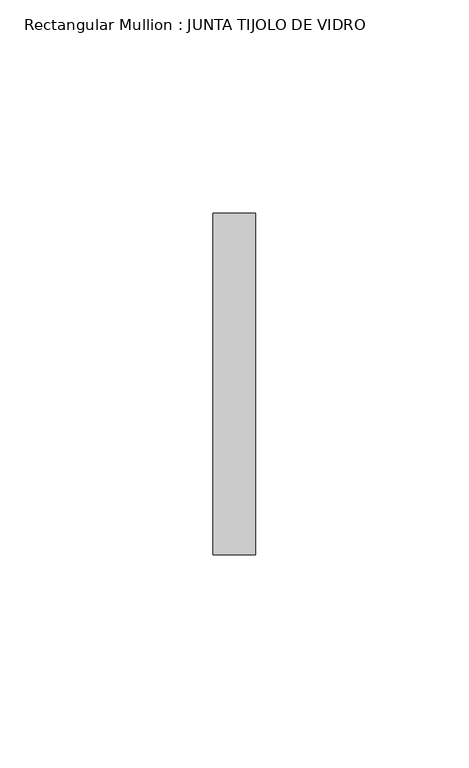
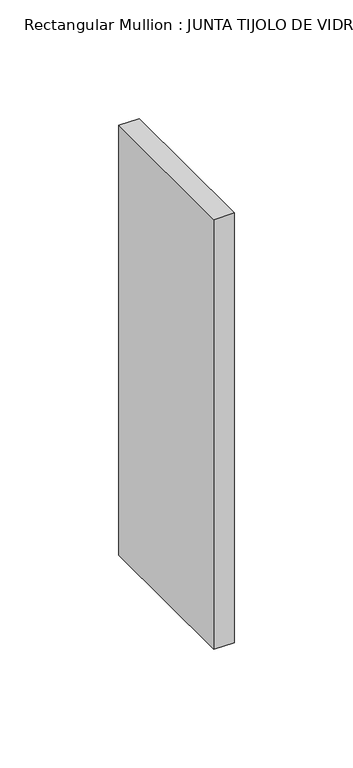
"""IFC4 building model written with IfcOpenShell, lengths in millimetres: member geometry, Rectangular Mullion : JUNTA TIJOLO DE VIDRO."""

from ifc_helpers import new_model, si_unit, frame, origin, place, context, project, spatial, polyline, outline, extrude, source, transform, mapped, element, save


def rectangular_mullion_junta_tijolo_de_vidro_89802564(model_context):
    return source(origin(), model_context, "Body", "SweptSolid", [
        extrude(outline(polyline([(0.0, 40.0), (0.0, -40.0), (-10.0, -40.0), (-10.0, 40.0), (0.0, 40.0)])), frame((0.0, 0.0, -221.1111111), z_axis=(0.0, 0.0, 1.0), x_axis=(1.0, 0.0, 0.0)), (0.0, 0.0, 1.0), 221.1111111),
    ])


if __name__ == "__main__":
    model = new_model("IFC4")
    model_context = context("Model", 3, world=origin())
    ifc_project = project(units=[si_unit("LENGTHUNIT", "METRE", prefix="MILLI")], contexts=[model_context])
    site = spatial("IfcSite", under=ifc_project)
    building = spatial("IfcBuilding", under=site)
    placement = place(None, origin())
    rectangular_mullion_junta_tijolo_de_vidro_shape = rectangular_mullion_junta_tijolo_de_vidro_89802564(model_context)
    element("IfcMember", 1, ObjectType="Rectangular Mullion : JUNTA TIJOLO DE VIDRO", at=placement, inside=building, context=model_context, shape_type="MappedRepresentation", body=[
        mapped(rectangular_mullion_junta_tijolo_de_vidro_shape, transform((0.0, 0.0, 0.0), x_axis=(1.0, 0.0, 0.0), y_axis=(0.0, 1.0, 0.0), z_axis=(0.0, 0.0, 1.0))),
    ])
    save(model, "model.ifc")
